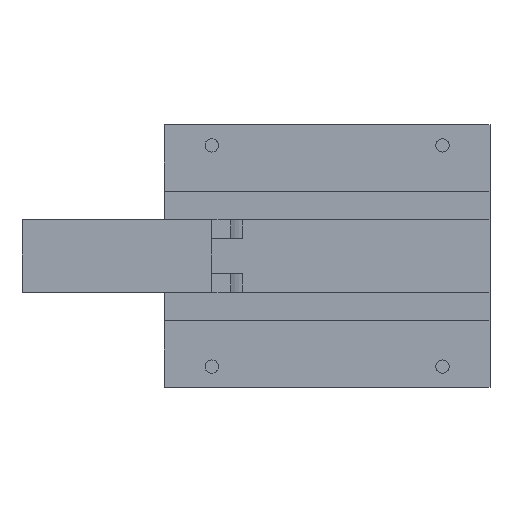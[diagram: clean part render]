
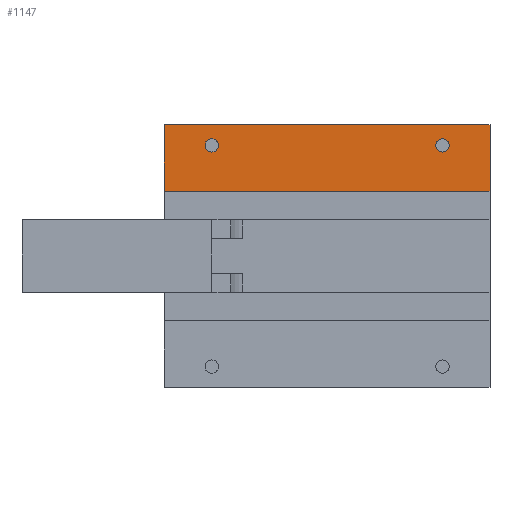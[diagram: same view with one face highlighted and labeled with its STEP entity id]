
A CAD part, top view. The second image highlights one B-rep face of the part: STEP entity #1147.
In plain terms, the highlighted planar face has unit normal (0, 0, 1).
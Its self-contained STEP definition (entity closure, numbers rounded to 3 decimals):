
#535=CARTESIAN_POINT('',(335.,83.,12.));
#536=VERTEX_POINT('',#535);
#642=CARTESIAN_POINT('',(335.,62.,12.));
#643=VERTEX_POINT('',#642);
#650=CARTESIAN_POINT('',(335.,83.,12.));
#651=DIRECTION('',(0.,-1.,0.));
#652=VECTOR('',#651,21.);
#653=LINE('',#650,#652);
#654=EDGE_CURVE('',#536,#643,#653,.T.);
#1032=CARTESIAN_POINT('',(352.125,76.5,12.));
#1033=VERTEX_POINT('',#1032);
#1042=CARTESIAN_POINT('',(350.,76.5,12.));
#1043=DIRECTION('',(0.,0.,1.));
#1044=DIRECTION('',(1.,0.,-0.));
#1045=AXIS2_PLACEMENT_3D('',#1042,#1043,#1044);
#1046=CIRCLE('',#1045,2.125);
#1047=EDGE_CURVE('',#1033,#1033,#1046,.T.);
#1074=CARTESIAN_POINT('',(425.125,76.5,12.));
#1075=VERTEX_POINT('',#1074);
#1084=CARTESIAN_POINT('',(423.,76.5,12.));
#1085=DIRECTION('',(0.,0.,1.));
#1086=DIRECTION('',(1.,0.,-0.));
#1087=AXIS2_PLACEMENT_3D('',#1084,#1085,#1086);
#1088=CIRCLE('',#1087,2.125);
#1089=EDGE_CURVE('',#1075,#1075,#1088,.T.);
#1111=CARTESIAN_POINT('',(438.,72.5,12.));
#1112=DIRECTION('',(0.,0.,-1.));
#1113=DIRECTION('',(0.,1.,0.));
#1114=AXIS2_PLACEMENT_3D('',#1111,#1112,#1113);
#1115=PLANE('',#1114);
#1116=ORIENTED_EDGE('',*,*,#654,.T.);
#1117=CARTESIAN_POINT('',(438.,62.,12.));
#1118=VERTEX_POINT('',#1117);
#1119=CARTESIAN_POINT('',(438.,62.,12.));
#1120=DIRECTION('',(-1.,0.,0.));
#1121=VECTOR('',#1120,103.);
#1122=LINE('',#1119,#1121);
#1123=EDGE_CURVE('',#1118,#643,#1122,.T.);
#1124=ORIENTED_EDGE('',*,*,#1123,.F.);
#1125=CARTESIAN_POINT('',(438.,83.,12.));
#1126=VERTEX_POINT('',#1125);
#1127=CARTESIAN_POINT('',(438.,83.,12.));
#1128=DIRECTION('',(0.,-1.,0.));
#1129=VECTOR('',#1128,21.);
#1130=LINE('',#1127,#1129);
#1131=EDGE_CURVE('',#1126,#1118,#1130,.T.);
#1132=ORIENTED_EDGE('',*,*,#1131,.F.);
#1133=CARTESIAN_POINT('',(438.,83.,12.));
#1134=DIRECTION('',(-1.,0.,0.));
#1135=VECTOR('',#1134,103.);
#1136=LINE('',#1133,#1135);
#1137=EDGE_CURVE('',#1126,#536,#1136,.T.);
#1138=ORIENTED_EDGE('',*,*,#1137,.T.);
#1139=EDGE_LOOP('',(#1116,#1124,#1132,#1138));
#1140=FACE_BOUND('',#1139,.T.);
#1141=ORIENTED_EDGE('',*,*,#1047,.F.);
#1142=EDGE_LOOP('',(#1141));
#1143=FACE_BOUND('',#1142,.T.);
#1144=ORIENTED_EDGE('',*,*,#1089,.F.);
#1145=EDGE_LOOP('',(#1144));
#1146=FACE_BOUND('',#1145,.T.);
#1147=ADVANCED_FACE('',(#1140,#1143,#1146),#1115,.F.);
